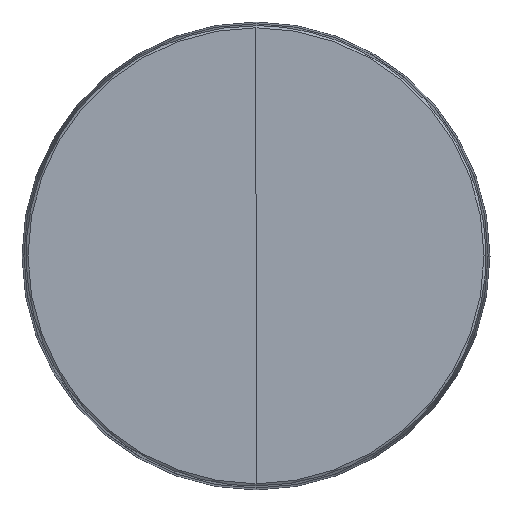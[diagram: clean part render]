
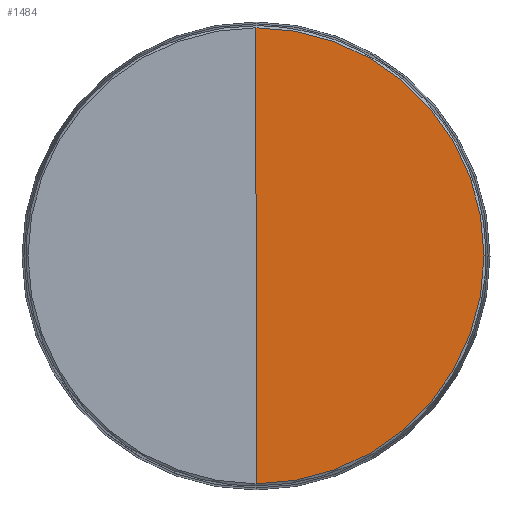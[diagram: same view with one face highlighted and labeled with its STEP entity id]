
A CAD part, top view. The second image highlights one B-rep face of the part: STEP entity #1484.
In plain terms, the highlighted planar face has unit normal (0, 0, 1).
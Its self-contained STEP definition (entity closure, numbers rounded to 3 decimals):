
#184=FACE_OUTER_BOUND('',#283,.T.);
#283=EDGE_LOOP('',(#1144,#1145));
#377=CIRCLE('',#1622,77.955);
#468=LINE('',#2823,#574);
#574=VECTOR('',#1930,304.8);
#694=VERTEX_POINT('',#2820);
#695=VERTEX_POINT('',#2821);
#858=EDGE_CURVE('',#694,#695,#377,.T.);
#859=EDGE_CURVE('',#695,#694,#468,.T.);
#1144=ORIENTED_EDGE('',*,*,#858,.F.);
#1145=ORIENTED_EDGE('',*,*,#859,.F.);
#1413=PLANE('',#1621);
#1484=ADVANCED_FACE('',(#184),#1413,.F.);
#1621=AXIS2_PLACEMENT_3D('',#2819,#1926,#1927);
#1622=AXIS2_PLACEMENT_3D('',#2822,#1928,#1929);
#1926=DIRECTION('center_axis',(0.,0.,-1.));
#1927=DIRECTION('ref_axis',(0.,-1.,0.));
#1928=DIRECTION('center_axis',(0.,0.,-1.));
#1929=DIRECTION('ref_axis',(-1.,0.,0.));
#1930=DIRECTION('',(0.,1.,0.));
#2819=CARTESIAN_POINT('Origin',(0.,0.,600.));
#2820=CARTESIAN_POINT('',(0.,77.955,600.));
#2821=CARTESIAN_POINT('',(0.,-77.955,600.));
#2822=CARTESIAN_POINT('Origin',(0.,0.,600.));
#2823=CARTESIAN_POINT('',(0.,0.,600.));
